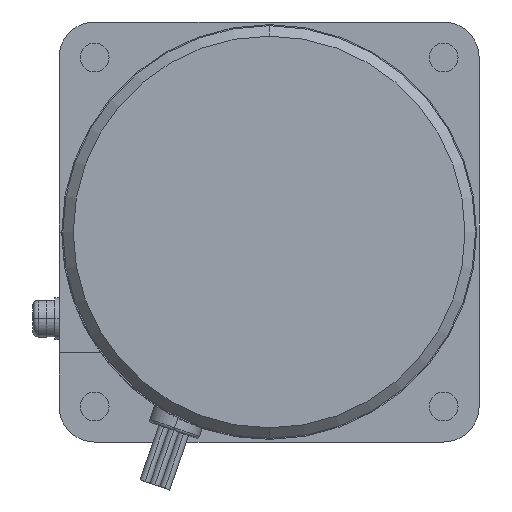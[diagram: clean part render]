
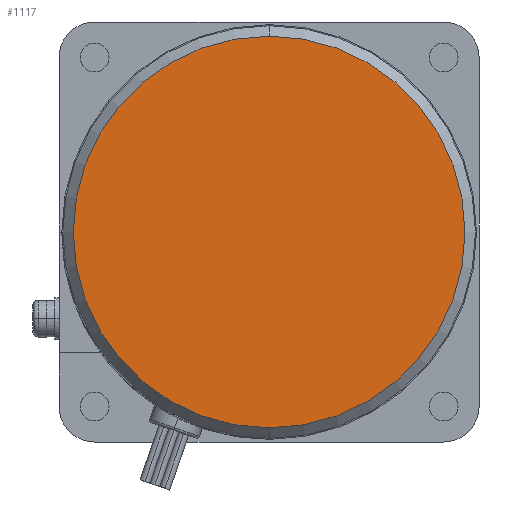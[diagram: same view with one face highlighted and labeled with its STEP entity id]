
A CAD part, left-side view. The second image highlights one B-rep face of the part: STEP entity #1117.
In plain terms, the highlighted planar face has unit normal (-1, 0, 0).
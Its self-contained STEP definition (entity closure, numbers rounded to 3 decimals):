
#1097=CARTESIAN_POINT('POINT538839',(-117.,0.,
   22.3));
#1098=VERTEX_POINT('VERTEX538839',#1097);
#1099=CARTESIAN_POINT('POINT538840',(-117.,0.,
   -52.3));
#1100=VERTEX_POINT('VERTEX538840',#1099);
#1101=CARTESIAN_POINT('POS883843',(-117.,0.,-15.));
#1102=DIRECTION('DIR1298081',(1.,0.,0.));
#1103=DIRECTION('DIR1298082',(0.,0.,1.));
#1104=AXIS2_PLACEMENT_3D('AXIS414239',#1101,#1102,#1103);
#1105=CIRCLE('ELLIPSE176033',#1104,37.3);
#1106=EDGE_CURVE('EDGE833105',#1098,#1100,#1105,.T.);
#1107=ORIENTED_EDGE('COEDGE1666763',*,*,#1106,.F.);
#1108=EDGE_CURVE('EDGE833106',#1100,#1098,#1105,.T.);
#1109=ORIENTED_EDGE('COEDGE1666764',*,*,#1108,.F.);
#1110=EDGE_LOOP('NONE',(#1107,#1109));
#1111=FACE_BOUND('LOOP1',#1110,.T.);
#1112=CARTESIAN_POINT('POS883844',(-117.,0.,
   3.65));
#1113=DIRECTION('DIR1298083',(-1.,0.,0.));
#1114=DIRECTION('DIR1298084',(0.,1.,0.));
#1115=AXIS2_PLACEMENT_3D('AXIS414240',#1112,#1113,#1114);
#1116=PLANE('PLANE160008',#1115);
#1117=ADVANCED_FACE('FACE330346',(#1111),#1116,.T.);
